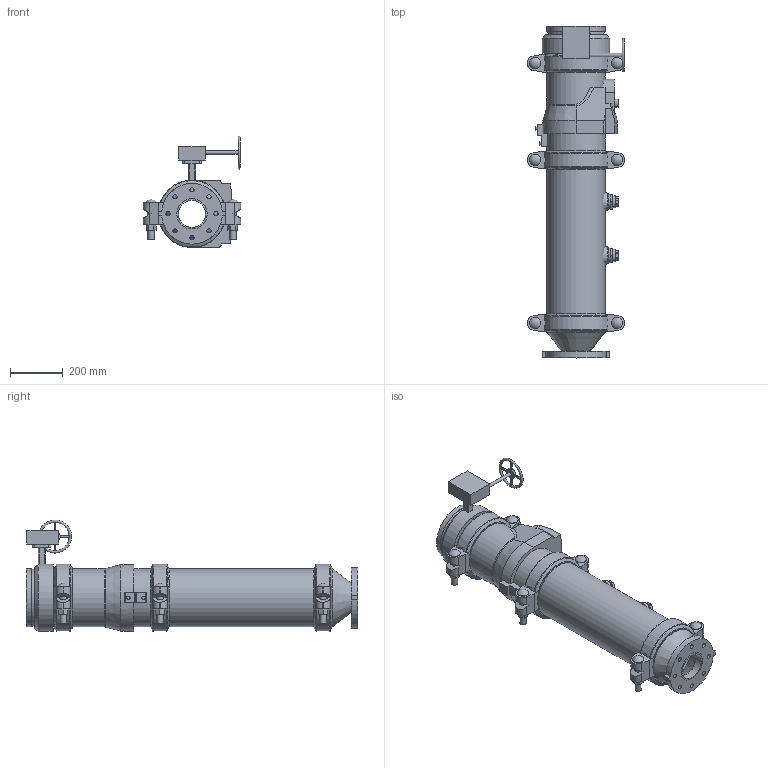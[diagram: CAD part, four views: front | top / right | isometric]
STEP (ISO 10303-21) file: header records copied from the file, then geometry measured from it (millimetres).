
FILE_DESCRIPTION(/* description */ ('VIC DVI PUMP DROP VERT S/390 (OGSxFLG)','CAx-IF Rec.Pracs.---Representation and Presentation of Product Manufacturing Information (PMI)---4.0---2014-10-13'),/* implementation_level */ '2;1');
FILE_NAME(/* name */ 'C:\Users\Vjadhav\AppData\Roaming\Autodesk\ApplicationPlugins\Back Up\Victaulic_IPS_Vertical DVI_PN10_Series 390 (OGSxFLG)\Victaulic_IPS_Vertical DVI_PN10_Series 390 (OGSxFLG)_08.0x04.0 (200x100).stp',/* time_stamp */ '2020-11-09T17:51:34+05:00',/* author */ ('Vjadhav'),/* organization */ ('Victaulic'),/* preprocessor_version */ 'ST-DEVELOPER v17.2',/* originating_system */ 'Autodesk Inventor 2019',/* authorisation */ '');
FILE_SCHEMA (('AP242_MANAGED_MODEL_BASED_3D_ENGINEERING_MIM_LF { 1 0 10303 442 1 1 4 }'));
Length unit declared in the file: inch
Products named in the file (8): 390-08.0x04.0; 741-04.0; 050-08.0x04.0; Pipe-08.0x04.0; 177N-08.0; 716-08.0; 923-04.0x0.75; 761-08.0
Assembly tree (10 placements, depth 2):
  390-08.0x04.0
    741-04.0
    050-08.0x04.0
    177N-08.0  x3
    Pipe-08.0x04.0
    716-08.0
    923-04.0x0.75  x2
    761-08.0
Bounding box: 367.28 x 1252.98 x 422.39 mm (x, y, z)
Volume: 15539545.3 mm3; surface area: 2590720.1 mm2
Topology: 10 solids, 11 shells, 583 faces, 1550 edges, 1038 vertices
Faces by surface type: plane 350, cylinder 187, cone 20, torus 18, sphere 6, bspline 2
Full cylindrical faces by diameter (mm): 8.636 x4, 12.446 x1, 12.7 x3, 16.002 x8, 22.86 x1, 23.774 x6, 26.67 x2, 30.48 x1, 39.125 x1, 42.85 x6, 45.974 x4, 55.118 x1, 55.626 x2, 102.26 x1, 110.084 x1, 114.3 x3, 202.717 x3, 206.375 x3, 206.985 x1, 214.401 x7, 219.075 x19, 254 x1
Entity records: 11825 total; most frequent: CARTESIAN_POINT 2386, DIRECTION 1922, ORIENTED_EDGE 1788, EDGE_CURVE 894, AXIS2_PLACEMENT_3D 727, VERTEX_POINT 606, LINE 468, VECTOR 468
